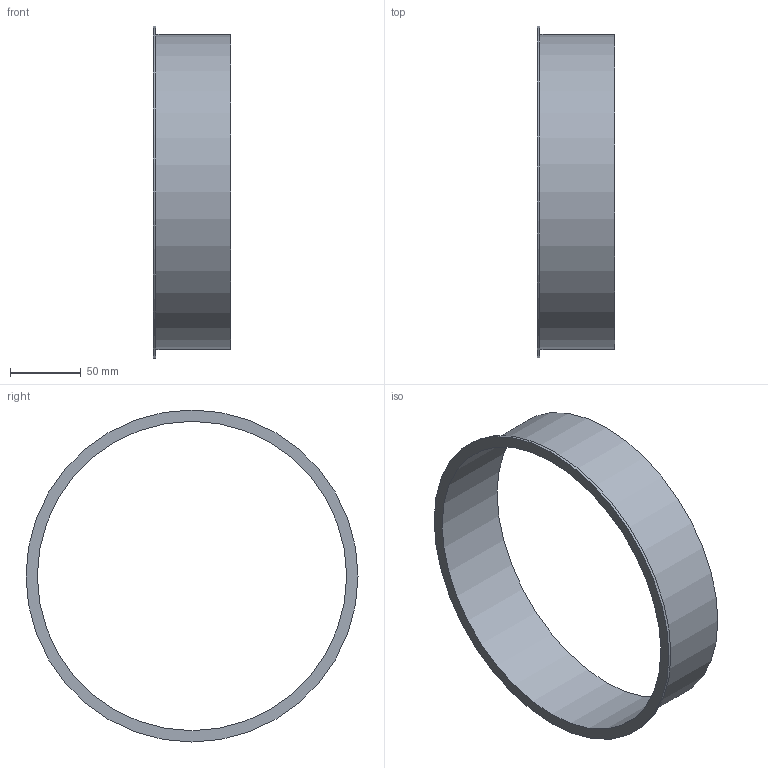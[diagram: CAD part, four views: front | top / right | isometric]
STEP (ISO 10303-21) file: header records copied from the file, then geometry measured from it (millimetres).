
FILE_DESCRIPTION((''),'2;1');
FILE_NAME('U:\Wolfgang\Marcel-3D\fertig\Kapitel 1\2221012.stp','2010-05-31T11:32:25',('TK2'),(''),'Autodesk Inventor 2010','Autodesk Inventor 2010','');
FILE_SCHEMA(('AUTOMOTIVE_DESIGN { 1 0 10303 214 1 1 1 1 }'));
Length unit declared in the file: millimetre
Products named in the file (1): 2221012
Bounding box: 55 x 235 x 235 mm (x, y, z)
Volume: 85005.2 mm3; surface area: 87857.8 mm2
Topology: 1 solids, 1 shells, 6 faces, 9 edges, 6 vertices
Faces by surface type: cylinder 3, plane 3
Full cylindrical faces by diameter (mm): 219 x1, 223 x1, 235 x1
Entity records: 154 total; most frequent: DIRECTION 26, CARTESIAN_POINT 19, AXIS2_PLACEMENT_3D 13, ORIENTED_EDGE 12, EDGE_LOOP 12, VERTEX_POINT 6, CIRCLE 6, EDGE_CURVE 6
